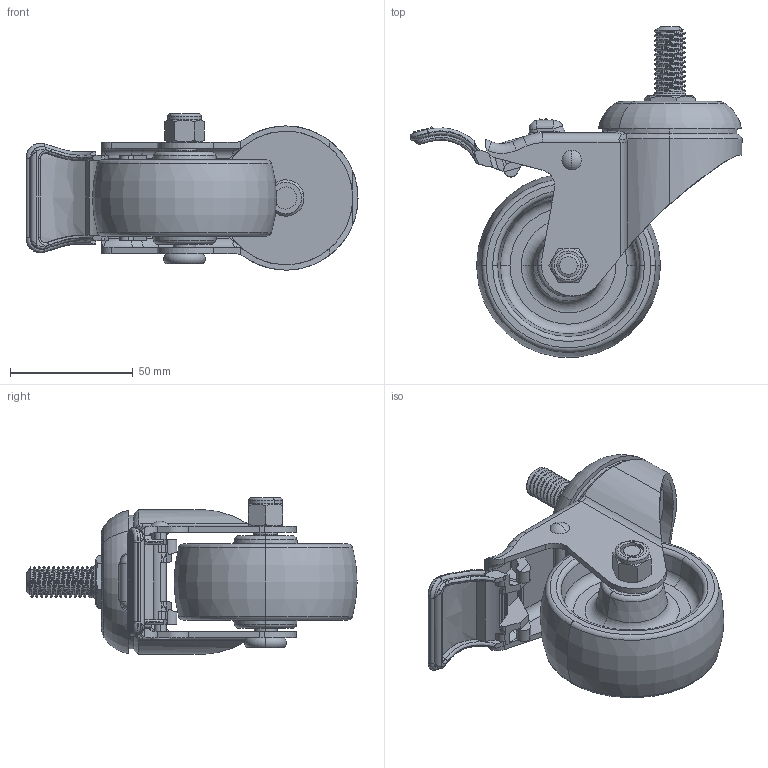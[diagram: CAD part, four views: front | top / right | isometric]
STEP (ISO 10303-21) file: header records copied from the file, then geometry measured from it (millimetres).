
FILE_DESCRIPTION (( 'STEP AP203' ), '1' );
FILE_NAME ('4111603004007-7.STEP', '2026-01-14T02:13:14', ( '' ), ( '' ), 'SwSTEP 2.0', 'SolidWorks 2019', '' );
FILE_SCHEMA (( 'CONFIG_CONTROL_DESIGN' ));
Length unit declared in the file: millimetre
Products named in the file (1): 4111603004007-7
Bounding box: 135.31 x 134.59 x 63.7 mm (x, y, z)
Volume: 162153.8 mm3; surface area: 59252.1 mm2
Topology: 6 solids, 7 shells, 577 faces, 1476 edges, 920 vertices
Faces by surface type: cylinder 178, plane 162, bspline 140, torus 53, cone 30, sphere 14
Entity records: 29659 total; most frequent: CARTESIAN_POINT 17139, ORIENTED_EDGE 2928, DIRECTION 2152, EDGE_CURVE 1464, VERTEX_POINT 920, AXIS2_PLACEMENT_3D 814, EDGE_LOOP 612, ADVANCED_FACE 577
